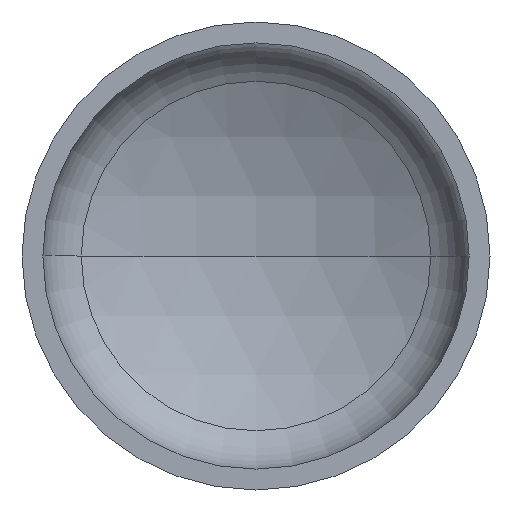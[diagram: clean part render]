
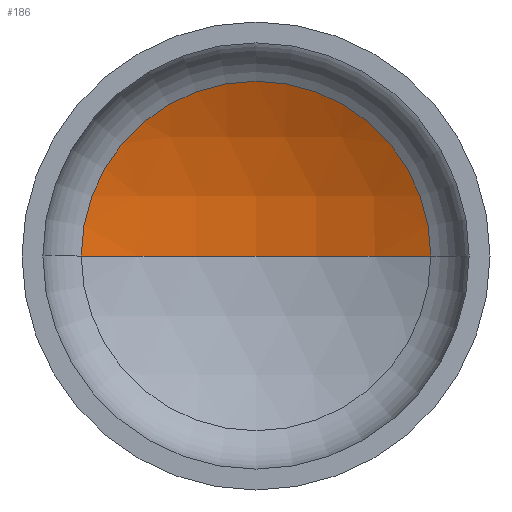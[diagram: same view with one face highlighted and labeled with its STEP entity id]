
A CAD part, front view. The second image highlights one B-rep face of the part: STEP entity #186.
In plain terms, the highlighted spherical face has radius 2080 mm.
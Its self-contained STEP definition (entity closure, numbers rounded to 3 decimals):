
#5 = DIRECTION ( 'NONE',  ( 0., -1., 0. ) ) ;
#13 = DIRECTION ( 'NONE',  ( 0., 0., -1. ) ) ;
#19 = EDGE_LOOP ( 'NONE', ( #406, #356, #113 ) ) ;
#24 = DIRECTION ( 'NONE',  ( 0., 0., 1. ) ) ;
#26 = CARTESIAN_POINT ( 'NONE',  ( 0., -1410.848, 0. ) ) ;
#28 = AXIS2_PLACEMENT_3D ( 'NONE', #289, #290, #247 ) ;
#29 = AXIS2_PLACEMENT_3D ( 'NONE', #399, #24, #276 ) ;
#30 = AXIS2_PLACEMENT_3D ( 'NONE', #26, #13, #353 ) ;
#33 = AXIS2_PLACEMENT_3D ( 'NONE', #361, #5, #157 ) ;
#52 = VERTEX_POINT ( 'NONE', #262 ) ;
#90 = EDGE_CURVE ( 'NONE', #110, #163, #196, .T. ) ;
#92 = EDGE_CURVE ( 'NONE', #52, #110, #133, .T. ) ;
#93 = EDGE_CURVE ( 'NONE', #52, #163, #260, .T. ) ;
#110 = VERTEX_POINT ( 'NONE', #301 ) ;
#113 = ORIENTED_EDGE ( 'NONE', *, *, #90, .T. ) ;
#133 = CIRCLE ( 'NONE', #30, 2080. ) ;
#157 = DIRECTION ( 'NONE',  ( 1., 0., 0. ) ) ;
#163 = VERTEX_POINT ( 'NONE', #267 ) ;
#186 = ADVANCED_FACE ( 'NONE', ( #191 ), #316, .F. ) ;
#191 = FACE_OUTER_BOUND ( 'NONE', #19, .T. ) ;
#196 = CIRCLE ( 'NONE', #33, 970.667 ) ;
#247 = DIRECTION ( 'NONE',  ( -1., 0., 0. ) ) ;
#260 = CIRCLE ( 'NONE', #29, 2080. ) ;
#262 = CARTESIAN_POINT ( 'NONE',  ( 0., 669.152, 0. ) ) ;
#267 = CARTESIAN_POINT ( 'NONE',  ( -970.667, 428.773, 0. ) ) ;
#276 = DIRECTION ( 'NONE',  ( 1., 0., 0. ) ) ;
#289 = CARTESIAN_POINT ( 'NONE',  ( 0., -1410.848, 0. ) ) ;
#290 = DIRECTION ( 'NONE',  ( 0., 0., -1. ) ) ;
#301 = CARTESIAN_POINT ( 'NONE',  ( 970.667, 428.773, 0. ) ) ;
#316 = SPHERICAL_SURFACE ( 'NONE', #28, 2080. ) ;
#353 = DIRECTION ( 'NONE',  ( -1., 0., 0. ) ) ;
#356 = ORIENTED_EDGE ( 'NONE', *, *, #92, .T. ) ;
#361 = CARTESIAN_POINT ( 'NONE',  ( 0., 428.773, 0. ) ) ;
#399 = CARTESIAN_POINT ( 'NONE',  ( 0., -1410.848, 0. ) ) ;
#406 = ORIENTED_EDGE ( 'NONE', *, *, #93, .F. ) ;
